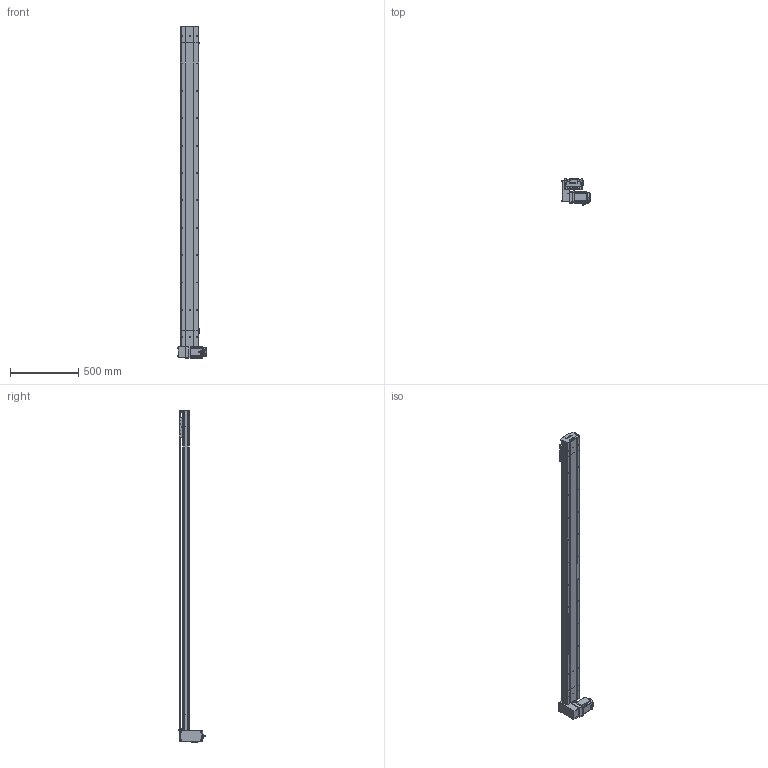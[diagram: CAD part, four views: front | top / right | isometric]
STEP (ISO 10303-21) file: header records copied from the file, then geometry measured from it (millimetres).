
FILE_DESCRIPTION (( 'STEP AP214' ), '1' );
FILE_NAME ('D14 TBH RU S2100.STEP', '2010-06-29T14:17:12', ( 'Conseil Régional Haute-Normandie' ), ( 'Conseil Régional Haute-Normandie' ), 'SwSTEP 2.0', 'SolidWorks 2010', '' );
FILE_SCHEMA (( 'AUTOMOTIVE_DESIGN' ));
Length unit declared in the file: millimetre
Products named in the file (39): vis M5 L16_Default; chariot D14B_Default; Chariot D14; guide D14; vis M5 L12_Default; poulie head_Default; couroie 2_Default; couvercle D14 head_Default; Moteur motionking 90BLDC100A-640; avant 90BLDC100A-640; corps 90BLDC100A-640; couvercle D14 course L2100_Default; D14 couroie L2100_Default; codeur 90BLDC100-640; Conecteur_Default; Conecteur2_Default; D14 TBH RU S2100; Plaque racord D14_Default; Cache arbre_Default; Cache_Default; renvoi RH_Default; corpl tail D14_Default; Arbre+rail tail D14; plaque de  bout tail D14_Default; tete d''axe haut D14; couvercle D14_Default; vis M5 L5_Default; corpl 2100_Default; Rail + couroie D14 Course 2100 ; Tail D14B_Default; vis M5 L8 90°_Default; poulie tail_Default; Couroie_Default; corp head D14_Default; D14 TB H RU_Default; Arbre+rail head D14; plaque de  bout head D14 RU_Default; Cvis M5 L70_Default; Vis M5 L16-2_Default
Assembly tree (68 placements, depth 4):
  D14 TBH RU S2100
    D14 TB H RU_Default
      vis M5 L12_Default  x12
      vis M5 L5_Default  x2
      couvercle D14 head_Default
      corp head D14_Default
      Vis M5 L16-2_Default  x4
      Arbre+rail head D14
      Cvis M5 L70_Default  x4
      Moteur motionking 90BLDC100A-640
        Conecteur_Default
        corps 90BLDC100A-640
        avant 90BLDC100A-640
        Conecteur2_Default
        codeur 90BLDC100-640
      Cache_Default  x2
      poulie head_Default
      Cache arbre_Default
      couroie 2_Default
      renvoi RH_Default
      plaque de  bout head D14 RU_Default
      Plaque racord D14_Default
    Tail D14B_Default
      vis M5 L8 90°_Default  x2
      corpl tail D14_Default
      Arbre+rail tail D14
      vis M5 L16_Default  x2
      poulie tail_Default
      tete d''axe haut D14
      vis M5 L12_Default  x4
      couvercle D14_Default
      plaque de  bout tail D14_Default
      Couroie_Default
    D14 couroie L2100_Default
      couvercle D14 course L2100_Default
      corpl 2100_Default
      Rail + couroie D14 Course 2100 
    chariot D14B_Default
      Chariot D14
      vis M5 L12_Default  x4
      guide D14  x2
Bounding box: 207.2 x 191.1 x 2425.75 mm (x, y, z)
Volume: 9429791.1 mm3; surface area: 3332263.7 mm2
Topology: 92 solids, 92 shells, 2693 faces, 6575 edges, 4242 vertices
Faces by surface type: plane 1605, cylinder 775, bspline 136, torus 89, cone 84, sphere 4
Entity records: 81044 total; most frequent: CARTESIAN_POINT 23849, ORIENTED_EDGE 10010, DIRECTION 9864, EDGE_CURVE 5005, VECTOR 3322, LINE 3322, VERTEX_POINT 3292, AXIS2_PLACEMENT_3D 3271
